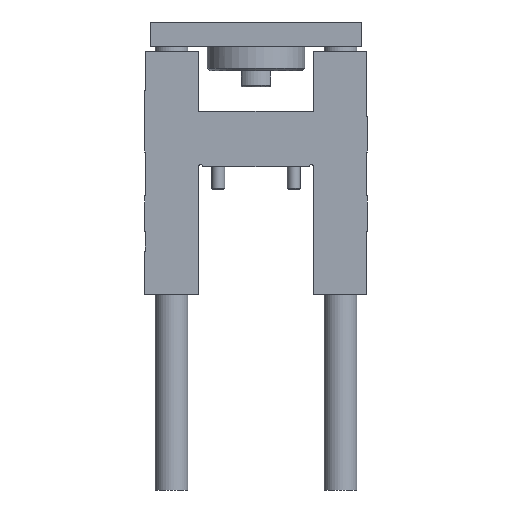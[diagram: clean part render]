
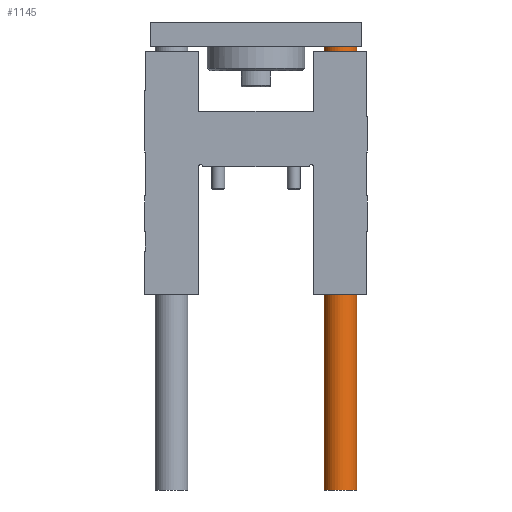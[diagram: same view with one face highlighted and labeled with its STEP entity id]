
A CAD part, front view. The second image highlights one B-rep face of the part: STEP entity #1145.
In plain terms, the highlighted cylindrical face has radius 10 mm (diameter 20 mm), a partial arc.
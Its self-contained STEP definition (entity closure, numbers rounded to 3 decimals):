
#301 = ORIENTED_EDGE ( 'NONE', *, *, #7304, .T. ) ;
#548 = LINE ( 'NONE', #4916, #10578 ) ;
#1145 = ADVANCED_FACE ( 'NONE', ( #1385 ), #2924, .T. ) ;
#1162 = VECTOR ( 'NONE', #8439, 1000. ) ;
#1385 = FACE_OUTER_BOUND ( 'NONE', #1935, .T. ) ;
#1490 = CARTESIAN_POINT ( 'NONE',  ( 62., 0., 74. ) ) ;
#1935 = EDGE_LOOP ( 'NONE', ( #7989, #6707, #301, #8730 ) ) ;
#2157 = VERTEX_POINT ( 'NONE', #2644 ) ;
#2381 = VERTEX_POINT ( 'NONE', #1490 ) ;
#2444 = DIRECTION ( 'NONE',  ( 0., 0., 1. ) ) ;
#2644 = CARTESIAN_POINT ( 'NONE',  ( 42., 0., -199. ) ) ;
#2924 = CYLINDRICAL_SURFACE ( 'NONE', #7653, 10. ) ;
#3607 = AXIS2_PLACEMENT_3D ( 'NONE', #7556, #2444, #6628 ) ;
#3773 = AXIS2_PLACEMENT_3D ( 'NONE', #6823, #9343, #5173 ) ;
#4031 = VERTEX_POINT ( 'NONE', #4424 ) ;
#4218 = CARTESIAN_POINT ( 'NONE',  ( 62., 0., -199. ) ) ;
#4258 = DIRECTION ( 'NONE',  ( 0., 0., -1. ) ) ;
#4424 = CARTESIAN_POINT ( 'NONE',  ( 62., 0., -199. ) ) ;
#4916 = CARTESIAN_POINT ( 'NONE',  ( 42., 0., -199. ) ) ;
#5094 = LINE ( 'NONE', #4218, #1162 ) ;
#5173 = DIRECTION ( 'NONE',  ( 1., 0., 0. ) ) ;
#5611 = EDGE_CURVE ( 'NONE', #6222, #2381, #7290, .T. ) ;
#6179 = EDGE_CURVE ( 'NONE', #2381, #4031, #5094, .T. ) ;
#6222 = VERTEX_POINT ( 'NONE', #6261 ) ;
#6261 = CARTESIAN_POINT ( 'NONE',  ( 42., 0., 74. ) ) ;
#6277 = CARTESIAN_POINT ( 'NONE',  ( 52., 0., -199. ) ) ;
#6628 = DIRECTION ( 'NONE',  ( 1., 0., 0. ) ) ;
#6707 = ORIENTED_EDGE ( 'NONE', *, *, #8236, .T. ) ;
#6823 = CARTESIAN_POINT ( 'NONE',  ( 52., 0., 74. ) ) ;
#7290 = CIRCLE ( 'NONE', #3773, 10. ) ;
#7304 = EDGE_CURVE ( 'NONE', #2157, #4031, #10081, .T. ) ;
#7556 = CARTESIAN_POINT ( 'NONE',  ( 52., 0., -199. ) ) ;
#7653 = AXIS2_PLACEMENT_3D ( 'NONE', #6277, #9673, #8853 ) ;
#7989 = ORIENTED_EDGE ( 'NONE', *, *, #5611, .F. ) ;
#8236 = EDGE_CURVE ( 'NONE', #6222, #2157, #548, .T. ) ;
#8439 = DIRECTION ( 'NONE',  ( 0., 0., -1. ) ) ;
#8730 = ORIENTED_EDGE ( 'NONE', *, *, #6179, .F. ) ;
#8853 = DIRECTION ( 'NONE',  ( 1., 0., 0. ) ) ;
#9343 = DIRECTION ( 'NONE',  ( 0., 0., 1. ) ) ;
#9673 = DIRECTION ( 'NONE',  ( 0., 0., -1. ) ) ;
#10081 = CIRCLE ( 'NONE', #3607, 10. ) ;
#10578 = VECTOR ( 'NONE', #4258, 1000. ) ;
